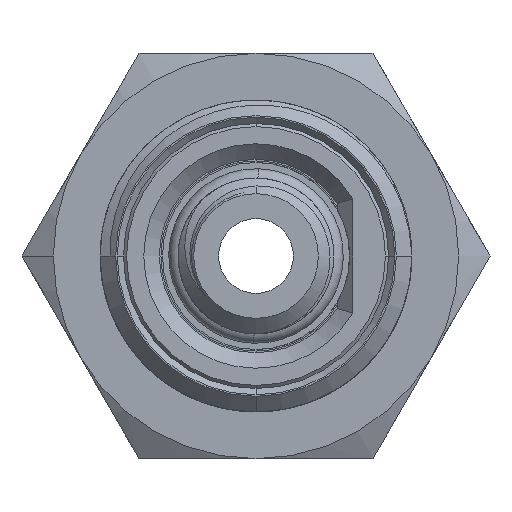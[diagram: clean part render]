
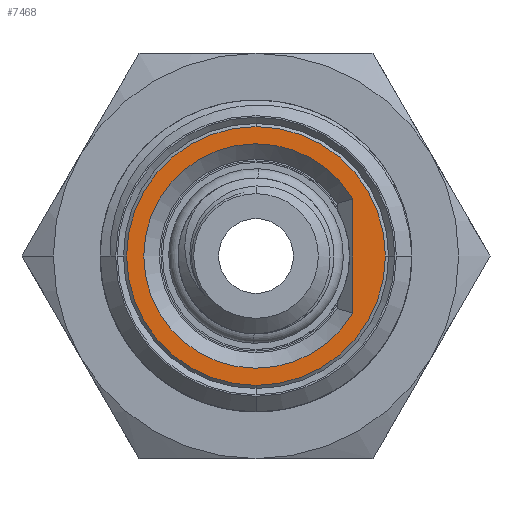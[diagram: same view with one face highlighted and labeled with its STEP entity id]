
A CAD part, front view. The second image highlights one B-rep face of the part: STEP entity #7468.
In plain terms, the highlighted planar face has unit normal (0, -1, 0).
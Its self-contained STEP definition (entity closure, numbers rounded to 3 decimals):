
#173 = EDGE_CURVE ( 'NONE', #10336, #11339, #2897, .T. ) ;
#272 = EDGE_CURVE ( 'NONE', #11339, #10336, #14261, .T. ) ;
#703 = ORIENTED_EDGE ( 'NONE', *, *, #742, .T. ) ;
#742 = EDGE_CURVE ( 'NONE', #15469, #4348, #2545, .T. ) ;
#886 = CARTESIAN_POINT ( 'NONE',  ( 0., -0.8, 0. ) ) ;
#905 = PLANE ( 'NONE',  #15196 ) ;
#1066 = DIRECTION ( 'NONE',  ( 0., -1., 0. ) ) ;
#1315 = DIRECTION ( 'NONE',  ( 0., 0., 1. ) ) ;
#1598 = EDGE_LOOP ( 'NONE', ( #7149, #703, #11581 ) ) ;
#1700 = CARTESIAN_POINT ( 'NONE',  ( 4.15, -0.8, 0. ) ) ;
#1731 = EDGE_LOOP ( 'NONE', ( #6719, #13482 ) ) ;
#1778 = CARTESIAN_POINT ( 'NONE',  ( 3.1, -0.8, 1.83 ) ) ;
#2245 = DIRECTION ( 'NONE',  ( 0., -1., 0. ) ) ;
#2287 = CARTESIAN_POINT ( 'NONE',  ( 0., -0.8, 0. ) ) ;
#2545 = CIRCLE ( 'NONE', #7958, 4.15 ) ;
#2897 = CIRCLE ( 'NONE', #4193, 3.6 ) ;
#3142 = DIRECTION ( 'NONE',  ( 0., 0., -1. ) ) ;
#3900 = CARTESIAN_POINT ( 'NONE',  ( 0., -0.8, 0. ) ) ;
#4017 = EDGE_CURVE ( 'NONE', #4461, #15469, #13874, .T. ) ;
#4193 = AXIS2_PLACEMENT_3D ( 'NONE', #886, #14450, #5829 ) ;
#4348 = VERTEX_POINT ( 'NONE', #9772 ) ;
#4461 = VERTEX_POINT ( 'NONE', #13629 ) ;
#4991 = DIRECTION ( 'NONE',  ( 0., 0., -1. ) ) ;
#5829 = DIRECTION ( 'NONE',  ( 0.861, 0., -0.508 ) ) ;
#5841 = DIRECTION ( 'NONE',  ( 0., 0., -1. ) ) ;
#5926 = CARTESIAN_POINT ( 'NONE',  ( 0., -0.8, 0. ) ) ;
#6437 = CIRCLE ( 'NONE', #10567, 4.15 ) ;
#6719 = ORIENTED_EDGE ( 'NONE', *, *, #272, .T. ) ;
#7149 = ORIENTED_EDGE ( 'NONE', *, *, #4017, .T. ) ;
#7209 = FACE_BOUND ( 'NONE', #1731, .T. ) ;
#7468 = ADVANCED_FACE ( 'NONE', ( #7209, #13335 ), #905, .F. ) ;
#7642 = EDGE_CURVE ( 'NONE', #4348, #4461, #6437, .T. ) ;
#7958 = AXIS2_PLACEMENT_3D ( 'NONE', #5926, #1066, #5841 ) ;
#8819 = VECTOR ( 'NONE', #3142, 1000. ) ;
#8979 = AXIS2_PLACEMENT_3D ( 'NONE', #13534, #2245, #4991 ) ;
#9473 = DIRECTION ( 'NONE',  ( 0., 0., 1. ) ) ;
#9772 = CARTESIAN_POINT ( 'NONE',  ( 0., -0.8, 4.15 ) ) ;
#10336 = VERTEX_POINT ( 'NONE', #11777 ) ;
#10567 = AXIS2_PLACEMENT_3D ( 'NONE', #3900, #12519, #1315 ) ;
#11339 = VERTEX_POINT ( 'NONE', #1778 ) ;
#11581 = ORIENTED_EDGE ( 'NONE', *, *, #7642, .T. ) ;
#11777 = CARTESIAN_POINT ( 'NONE',  ( 3.1, -0.8, -1.83 ) ) ;
#12519 = DIRECTION ( 'NONE',  ( 0., -1., 0. ) ) ;
#13335 = FACE_OUTER_BOUND ( 'NONE', #1598, .T. ) ;
#13482 = ORIENTED_EDGE ( 'NONE', *, *, #173, .T. ) ;
#13534 = CARTESIAN_POINT ( 'NONE',  ( 0., -0.8, 0. ) ) ;
#13629 = CARTESIAN_POINT ( 'NONE',  ( 0., -0.8, -4.15 ) ) ;
#13874 = CIRCLE ( 'NONE', #8979, 4.15 ) ;
#14181 = CARTESIAN_POINT ( 'NONE',  ( 3.1, -0.8, 1.83 ) ) ;
#14261 = LINE ( 'NONE', #14181, #8819 ) ;
#14450 = DIRECTION ( 'NONE',  ( 0., 1., 0. ) ) ;
#15196 = AXIS2_PLACEMENT_3D ( 'NONE', #2287, #15602, #9473 ) ;
#15469 = VERTEX_POINT ( 'NONE', #1700 ) ;
#15602 = DIRECTION ( 'NONE',  ( 0., 1., 0. ) ) ;
